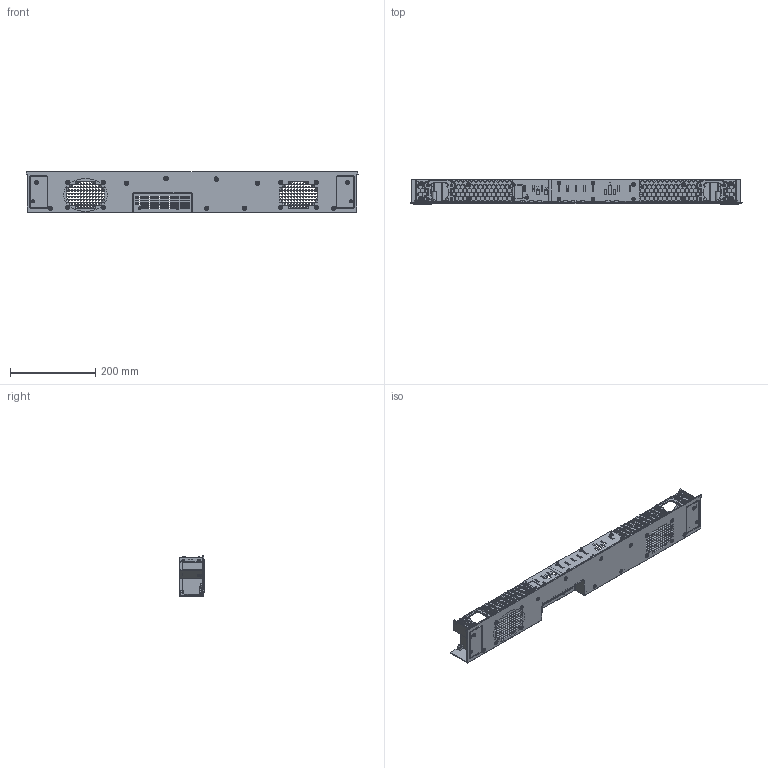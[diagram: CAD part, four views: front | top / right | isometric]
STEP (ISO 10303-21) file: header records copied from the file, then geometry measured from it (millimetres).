
FILE_DESCRIPTION((''),'2;1');
FILE_NAME('CASE_BOTTOM_MODIFY_UA300','2021-03-16T',('kym12'),(''),'CREO PARAMETRIC BY PTC INC, 2017170','CREO PARAMETRIC BY PTC INC, 2017170','');
FILE_SCHEMA(('CONFIG_CONTROL_DESIGN'));
Products named in the file (1): CASE_BOTTOM_MODIFY_UA300
Bounding box: 779.36 x 58.2 x 95.92 mm (x, y, z)
Volume: 531885 mm3; surface area: 460525.6 mm2
Topology: 1 solids, 5 shells, 5193 faces, 14622 edges, 9666 vertices
Faces by surface type: plane 4113, cylinder 613, cone 266, bspline 183, torus 10, extrusion 6, sphere 2
Entity records: 198432 total; most frequent: CARTESIAN_POINT 65278, ORIENTED_EDGE 29244, DIRECTION 24469, EDGE_CURVE 14622, VECTOR 11623, LINE 11617, VERTEX_POINT 9666, AXIS2_PLACEMENT_3D 6423
